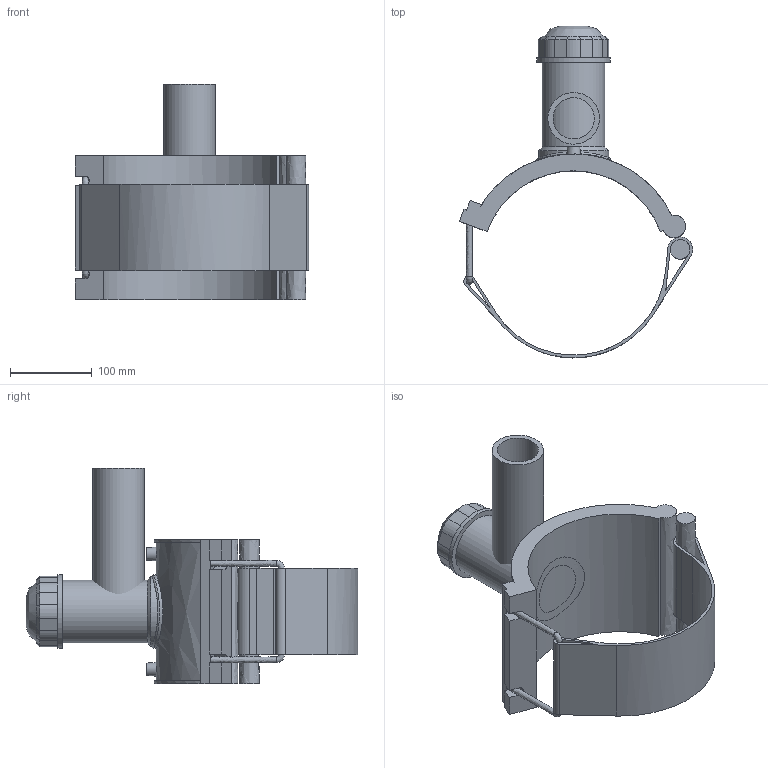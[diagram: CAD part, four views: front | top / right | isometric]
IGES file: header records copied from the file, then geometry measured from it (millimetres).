
Global section: file name: 4963P4225063; native system: Autodesk Inventor 2019; preprocessor: unknown; author: KIM; date: 20220317.113247; units: millimetre
Bounding box: 284.83 x 405.36 x 263 mm (x, y, z)
Volume: 2071196.4 mm3; surface area: 419106.5 mm2
Topology: 3 solids, 3 shells, 118 faces, 303 edges, 197 vertices
Faces by surface type: bspline 118
